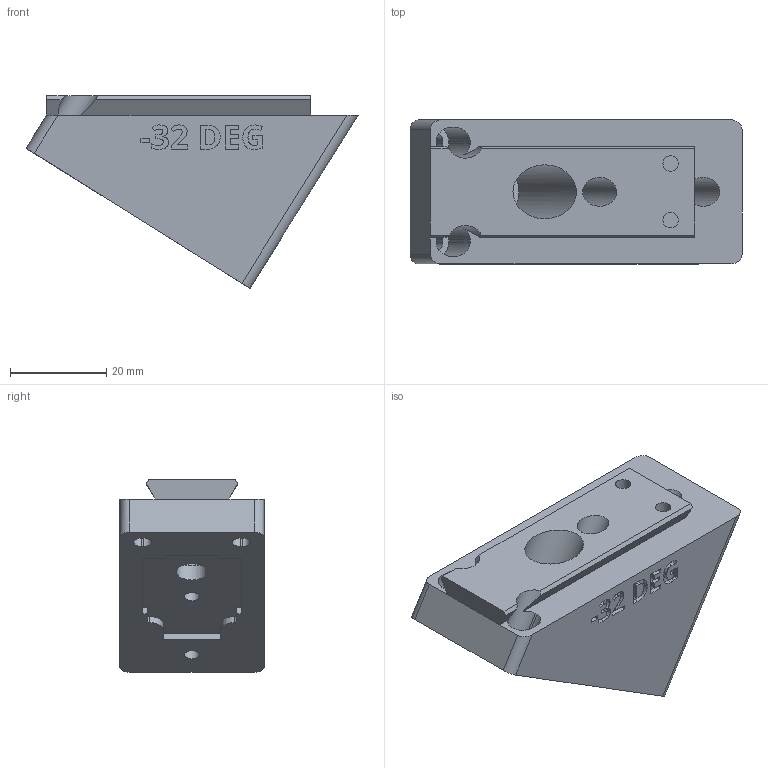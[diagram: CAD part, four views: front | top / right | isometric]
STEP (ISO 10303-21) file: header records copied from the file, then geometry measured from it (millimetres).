
FILE_DESCRIPTION(/* description */ ('STEP AP242 Edition 2','CAx-IF Rec.Pracs.---Representation and Presentation of Product Manufacturing Information (PMI)---4.0---2014-10-13','CAx-IF Rec.Pracs.---3D Tessellated Geometry---0.4---2014-09-14','2;1','CAx-IF Rec.Pracs.---User Defined Attributes---1.5---2016-08-15'),/* implementation_level */ '2;1');
FILE_NAME(/* name */ 'Camera Wedges - CAMERA MOUNTING WEDGE, NEG, -32 DEG',/* time_stamp */ '2026-08-11T00:07:57Z',/* author */ (''),/* organization */ (''),/* preprocessor_version */ 'ST-DEVELOPER v20',/* originating_system */ 'ONSHAPE BY PTC INC, 1.219',/* authorisation */ ' ');
FILE_SCHEMA (('AP242_MANAGED_MODEL_BASED_3D_ENGINEERING_MIM_LF { 1 0 10303 442 3 1 4 }'));
Length unit declared in the file: metre
Products named in the file (1): CAMERA MOUNTING WEDGE, NEG, -32 DEG
Bounding box: 69.11 x 30 x 40.06 mm (x, y, z)
Volume: 40060.6 mm3; surface area: 11200.8 mm2
Topology: 1 solids, 1 shells, 287 faces, 796 edges, 530 vertices
Faces by surface type: plane 149, bspline 80, cylinder 58
Full cylindrical faces by diameter (mm): 3.2 x4, 6 x2, 6.4 x1, 11.2 x1
Entity records: 9416 total; most frequent: CARTESIAN_POINT 2484, ORIENTED_EDGE 1574, DIRECTION 1172, EDGE_CURVE 787, VERTEX_POINT 529, LINE 498, VECTOR 498, AXIS2_PLACEMENT_3D 337
